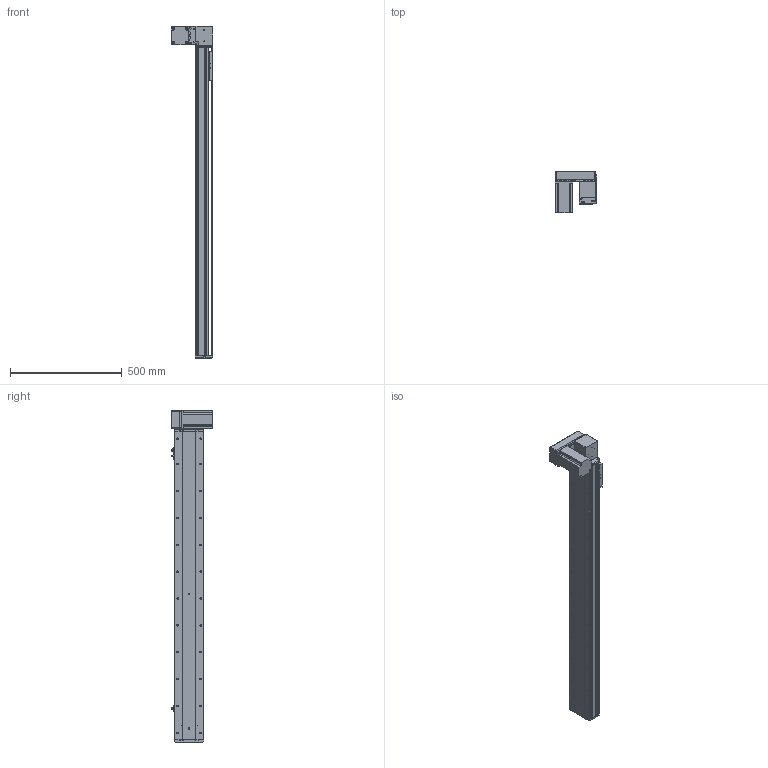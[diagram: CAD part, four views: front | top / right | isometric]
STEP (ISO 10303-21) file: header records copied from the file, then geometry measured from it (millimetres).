
FILE_DESCRIPTION (( 'STEP AP214' ), '1' );
FILE_NAME ('KSD130B-S1150-MRD-CM.STEP', '2019-11-16T00:54:59', ( '微软用户' ), ( '微软中国' ), 'SwSTEP 2.0', 'SolidWorks 2014', '' );
FILE_SCHEMA (( 'AUTOMOTIVE_DESIGN' ));
Length unit declared in the file: millimetre
Products named in the file (12): 130宽模组保护罩上下左右折-同步带; 台达ECMA－C20807AS伺服电机; 130宽模组马达安装板连板上下折丝杆同步带; 覜茼え100遵圉猾敕; U倰嫖萇EEㄜSX672; 130宽盖板半封闭同步带-1150行程; 130宽马达安装板同步带右-改镜向_默认<按加工>; 130宽马达安装板同步带半封闭; 130宽同步带安装座半封闭; 130宽端盖同步带半封闭; 130宽底板半封闭同步带-1150行程; KSD130B-S1150-MRD-CM
Assembly tree (13 placements, depth 2):
  KSD130B-S1150-MRD-CM
    130宽底板半封闭同步带-1150行程
    130宽端盖同步带半封闭
    130宽同步带安装座半封闭
    130宽马达安装板同步带半封闭
    130宽马达安装板同步带右-改镜向_默认<按加工>
    130宽盖板半封闭同步带-1150行程
    U倰嫖萇EEㄜSX672  x3
    覜茼え100遵圉猾敕
    130宽模组马达安装板连板上下折丝杆同步带
    台达ECMA－C20807AS伺服电机
    130宽模组保护罩上下左右折-同步带
Bounding box: 187.5 x 184.8 x 1483 mm (x, y, z)
Volume: 5370318.1 mm3; surface area: 1480856.8 mm2
Topology: 14 solids, 14 shells, 1577 faces, 4525 edges, 2881 vertices
Faces by surface type: cylinder 760, plane 630, cone 187
Entity records: 52327 total; most frequent: CARTESIAN_POINT 9802, DIRECTION 7951, ORIENTED_EDGE 7662, EDGE_CURVE 3831, AXIS2_PLACEMENT_3D 2910, VERTEX_POINT 2505, LINE 2131, VECTOR 2131
